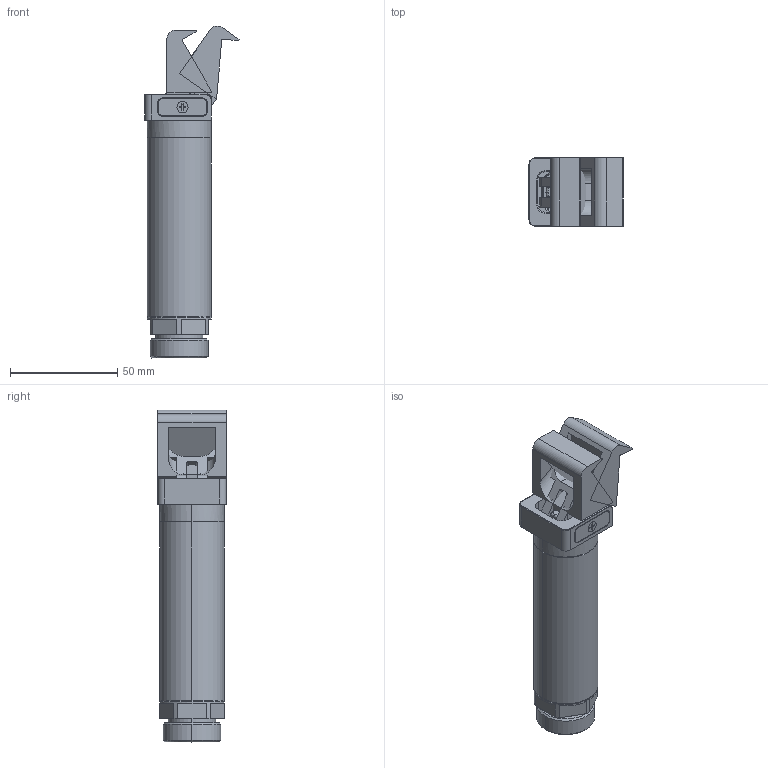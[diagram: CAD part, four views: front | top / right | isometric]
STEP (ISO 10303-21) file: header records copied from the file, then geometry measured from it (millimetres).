
FILE_DESCRIPTION (( 'STEP AP214' ), '1' );
FILE_NAME ('GFA30-35-C.STEP', '2019-11-13T01:13:37', ( '微软用户' ), ( '微软中国' ), 'SwSTEP 2.0', 'SolidWorks 2016', '' );
FILE_SCHEMA (( 'AUTOMOTIVE_DESIGN' ));
Length unit declared in the file: millimetre
Products named in the file (1): GFA30-35-C
Bounding box: 43.87 x 32 x 154.88 mm (x, y, z)
Volume: 86386.5 mm3; surface area: 45461.6 mm2
Topology: 12 solids, 12 shells, 556 faces, 1326 edges, 802 vertices
Faces by surface type: cylinder 211, plane 160, cone 140, bspline 21, torus 16, sphere 8
Entity records: 23257 total; most frequent: CARTESIAN_POINT 3893, DIRECTION 2857, ORIENTED_EDGE 2652, EDGE_CURVE 1326, AXIS2_PLACEMENT_3D 1069, VERTEX_POINT 802, VECTOR 719, LINE 719
